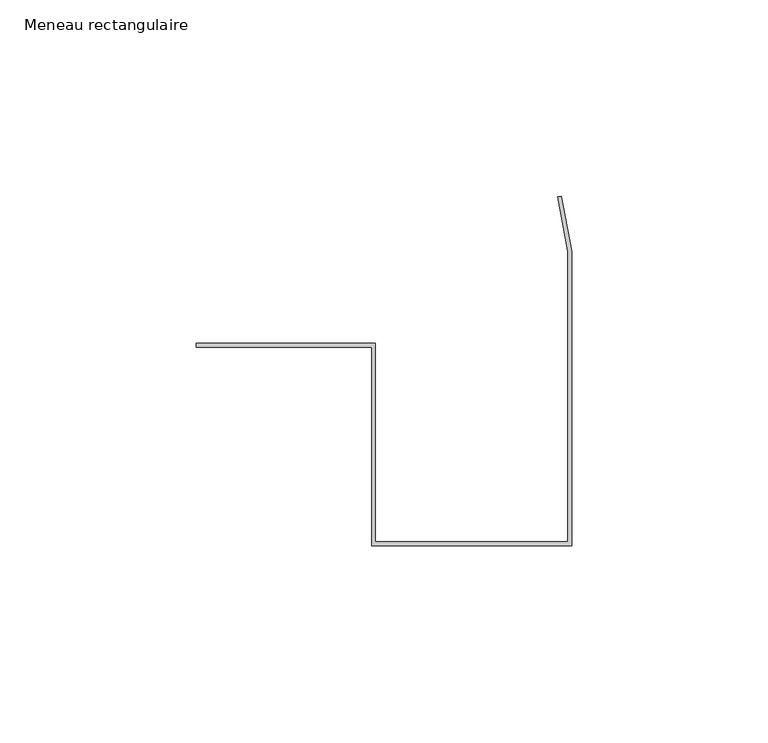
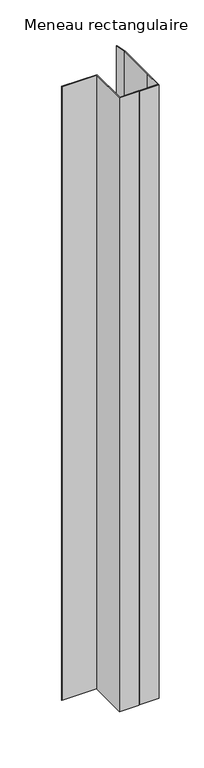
"""IFC4 building model written with IfcOpenShell, lengths in millimetres: member geometry, Meneau rectangulaire : Jonction contre mur Gauche H."""

from ifc_helpers import new_model, si_unit, frame, origin, place, context, project, spatial, polyline, outline, extrude, source, transform, mapped, element, save


def meneau_rectangulaire_7286c9cd(model_context):
    return source(origin(), model_context, "Body", "SweptSolid", [
        extrude(outline(polyline([(-1.0, 26.3950161), (-3.6043568, 40.2612876), (-2.6384309, 40.4427073), (0.0, 26.3950161), (0.0, -23.6049839), (0.0, -48.6049839), (-25.0, -48.6049839), (-26.0, -48.6049839), (-51.0, -48.6049839), (-51.0, 2.0), (-95.6686418, 2.0), (-95.6686418, 3.0), (-50.0, 3.0), (-50.0, -47.6049839), (-26.0, -47.6049839), (-25.0, -47.6049839), (-1.0, -47.6049839), (-1.0, -23.6049839), (-1.0, 26.3950161)])), frame((0.0, 0.0, -834.0), z_axis=(0.0, 0.0, 1.0), x_axis=(1.0, 0.0, 0.0)), (0.0, 0.0, 1.0), 834.0),
    ])


if __name__ == "__main__":
    model = new_model("IFC4")
    model_context = context("Model", 3, world=origin())
    ifc_project = project(units=[si_unit("LENGTHUNIT", "METRE", prefix="MILLI")], contexts=[model_context])
    site = spatial("IfcSite", under=ifc_project)
    building = spatial("IfcBuilding", under=site)
    placement = place(None, origin())
    meneau_rectangulaire_shape = meneau_rectangulaire_7286c9cd(model_context)
    element("IfcMember", 1, ObjectType="Meneau rectangulaire : Jonction contre mur Gauche H", at=placement, inside=building, context=model_context, shape_type="MappedRepresentation", body=[
        mapped(meneau_rectangulaire_shape, transform((0.0, 0.0, 0.0), x_axis=(1.0, 0.0, 0.0), y_axis=(0.0, 1.0, 0.0), z_axis=(0.0, 0.0, 1.0))),
    ])
    save(model, "model.ifc")
